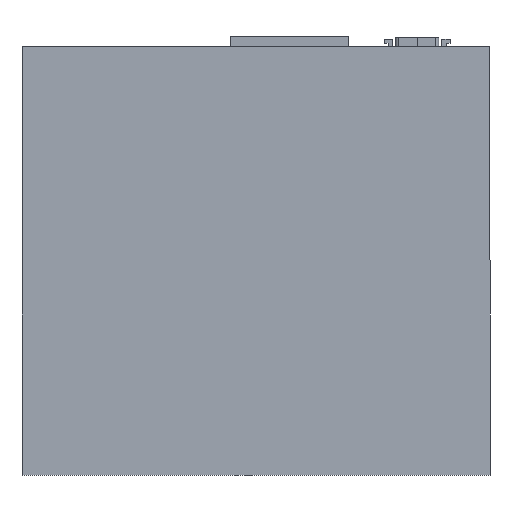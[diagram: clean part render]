
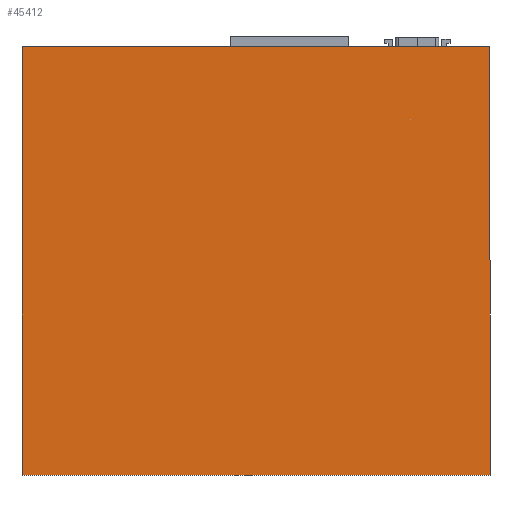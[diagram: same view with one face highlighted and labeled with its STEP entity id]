
A CAD part, left-side view. The second image highlights one B-rep face of the part: STEP entity #45412.
In plain terms, the highlighted planar face has unit normal (-1, 0, 0).
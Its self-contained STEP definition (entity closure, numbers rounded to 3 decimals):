
#12699 = DIRECTION ( 'NONE',  ( 0., 1., 0. ) ) ;
#12761 = CARTESIAN_POINT ( 'NONE',  ( 0., 71., 65. ) ) ;
#12762 = DIRECTION ( 'NONE',  ( 0., -1., 0. ) ) ;
#12764 = VECTOR ( 'NONE', #12762, 1000. ) ;
#12765 = CARTESIAN_POINT ( 'NONE',  ( 0., 71., 65. ) ) ;
#12777 = CARTESIAN_POINT ( 'NONE',  ( 0., 71., -65. ) ) ;
#12857 = DIRECTION ( 'NONE',  ( 0., 0., -1. ) ) ;
#12858 = VECTOR ( 'NONE', #12857, 1000. ) ;
#12860 = CARTESIAN_POINT ( 'NONE',  ( 0., -71., 65. ) ) ;
#12863 = CARTESIAN_POINT ( 'NONE',  ( 0., 71., 65. ) ) ;
#12865 = LINE ( 'NONE', #12863, #12886 ) ;
#12878 = LINE ( 'NONE', #12860, #12858 ) ;
#12881 = CARTESIAN_POINT ( 'NONE',  ( 0., -71., 65. ) ) ;
#12884 = CARTESIAN_POINT ( 'NONE',  ( 0., -71., -65. ) ) ;
#12885 = DIRECTION ( 'NONE',  ( 0., 0., 1. ) ) ;
#12886 = VECTOR ( 'NONE', #12885, 1000. ) ;
#12935 = VECTOR ( 'NONE', #12699, 1000. ) ;
#12936 = CARTESIAN_POINT ( 'NONE',  ( 0., 71., -65. ) ) ;
#12938 = LINE ( 'NONE', #12936, #12935 ) ;
#12942 = LINE ( 'NONE', #12765, #12764 ) ;
#13620 = PLANE ( 'NONE',  #13622 ) ;
#13621 = CARTESIAN_POINT ( 'NONE',  ( 0., 71., 65. ) ) ;
#13622 = AXIS2_PLACEMENT_3D ( 'NONE', #13621, #13685, #13684 ) ;
#13684 = DIRECTION ( 'NONE',  ( 0., 0., -1. ) ) ;
#13685 = DIRECTION ( 'NONE',  ( 1., 0., 0. ) ) ;
#13696 = FACE_OUTER_BOUND ( 'NONE', #45413, .T. ) ;
#44988 = EDGE_CURVE ( 'NONE', #45013, #45059, #12938, .T. ) ;
#45011 = EDGE_CURVE ( 'NONE', #45059, #45021, #12865, .T. ) ;
#45013 = VERTEX_POINT ( 'NONE', #12884 ) ;
#45020 = EDGE_CURVE ( 'NONE', #45021, #45022, #12942, .T. ) ;
#45021 = VERTEX_POINT ( 'NONE', #12761 ) ;
#45022 = VERTEX_POINT ( 'NONE', #12881 ) ;
#45028 = EDGE_CURVE ( 'NONE', #45022, #45013, #12878, .T. ) ;
#45059 = VERTEX_POINT ( 'NONE', #12777 ) ;
#45412 = ADVANCED_FACE ( 'NONE', ( #13696 ), #13620, .F. ) ;
#45413 = EDGE_LOOP ( 'NONE', ( #45414, #45498, #45499, #45500 ) ) ;
#45414 = ORIENTED_EDGE ( 'NONE', *, *, #45020, .F. ) ;
#45498 = ORIENTED_EDGE ( 'NONE', *, *, #45011, .F. ) ;
#45499 = ORIENTED_EDGE ( 'NONE', *, *, #44988, .F. ) ;
#45500 = ORIENTED_EDGE ( 'NONE', *, *, #45028, .F. ) ;
